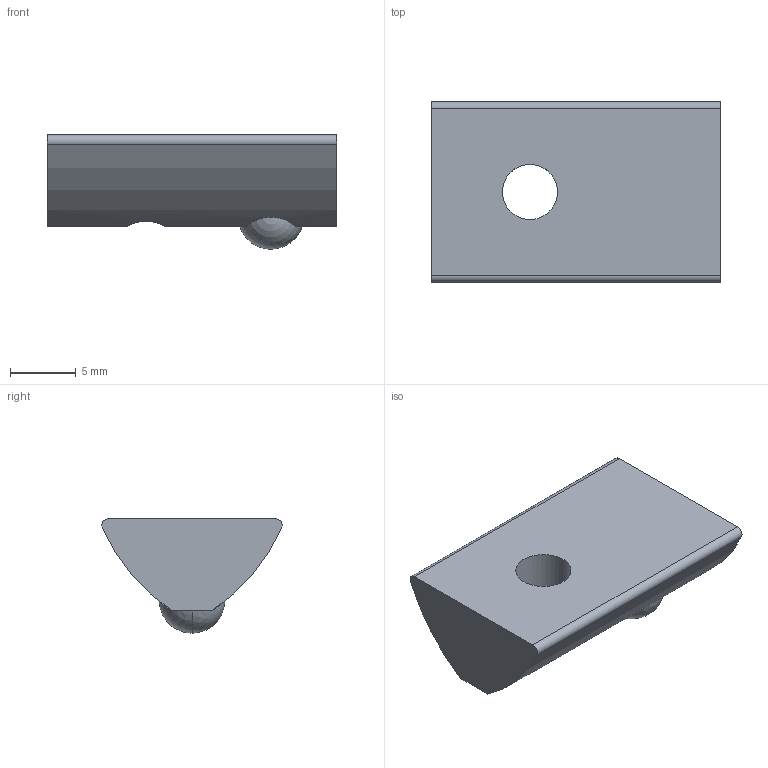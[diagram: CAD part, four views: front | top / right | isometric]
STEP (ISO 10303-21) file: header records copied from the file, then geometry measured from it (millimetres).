
FILE_DESCRIPTION (( 'STEP AP203' ), '1' );
FILE_NAME ('0108NSM5.STEP', '2024-03-05T08:29:50', ( 'Windows-Benutzer' ), ( '' ), 'SwSTEP 2.0', 'SolidWorks 2023', '' );
FILE_SCHEMA (( 'CONFIG_CONTROL_DESIGN' ));
Length unit declared in the file: millimetre
Products named in the file (1): 0108NSM5
Bounding box: 22 x 13.7 x 8.7 mm (x, y, z)
Volume: 1422.2 mm3; surface area: 966.1 mm2
Topology: 1 solids, 1 shells, 14 faces, 40 edges, 27 vertices
Faces by surface type: cylinder 6, plane 6, sphere 2
Entity records: 609 total; most frequent: CARTESIAN_POINT 146, DIRECTION 86, ORIENTED_EDGE 80, EDGE_CURVE 40, AXIS2_PLACEMENT_3D 35, VERTEX_POINT 27, CIRCLE 20, VECTOR 16
